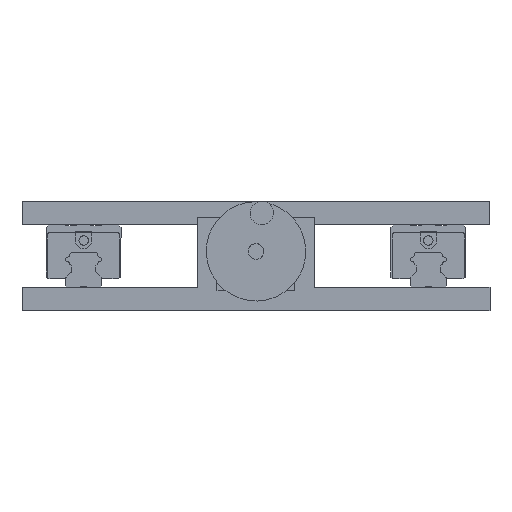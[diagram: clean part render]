
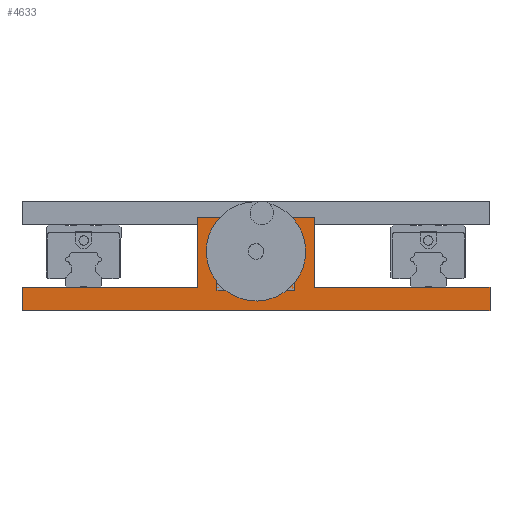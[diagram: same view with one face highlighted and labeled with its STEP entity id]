
A CAD part, front view. The second image highlights one B-rep face of the part: STEP entity #4633.
In plain terms, the highlighted planar face has unit normal (0, -1, 0).
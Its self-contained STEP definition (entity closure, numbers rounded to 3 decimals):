
#540 = ORIENTED_EDGE ( 'NONE', *, *, #39850, .F. ) ;
#1753 = EDGE_CURVE ( 'NONE', #54665, #45444, #26984, .T. ) ;
#3218 = CARTESIAN_POINT ( 'NONE',  ( 37.5, -266.5, 60. ) ) ;
#3254 = VERTEX_POINT ( 'NONE', #3218 ) ;
#3854 = VERTEX_POINT ( 'NONE', #57516 ) ;
#4633 = ADVANCED_FACE ( 'NONE', ( #56930, #22943 ), #48410, .F. ) ;
#5668 = CARTESIAN_POINT ( 'NONE',  ( -150., -266.5, 15. ) ) ;
#5722 = CARTESIAN_POINT ( 'NONE',  ( -150., -266.5, 15. ) ) ;
#8097 = DIRECTION ( 'NONE',  ( 0., -1., 0. ) ) ;
#8407 = CARTESIAN_POINT ( 'NONE',  ( 150., -266.5, 0. ) ) ;
#8583 = VECTOR ( 'NONE', #30534, 1000. ) ;
#9227 = LINE ( 'NONE', #5668, #34590 ) ;
#10027 = CARTESIAN_POINT ( 'NONE',  ( 150., -266.5, 15. ) ) ;
#11351 = DIRECTION ( 'NONE',  ( 1., 0., 0. ) ) ;
#11408 = ORIENTED_EDGE ( 'NONE', *, *, #27014, .F. ) ;
#11821 = CARTESIAN_POINT ( 'NONE',  ( -150., -266.5, 0. ) ) ;
#12724 = EDGE_LOOP ( 'NONE', ( #540, #50839 ) ) ;
#13428 = VECTOR ( 'NONE', #11351, 1000. ) ;
#14248 = VECTOR ( 'NONE', #50300, 1000. ) ;
#15967 = CARTESIAN_POINT ( 'NONE',  ( 150., -266.5, 15. ) ) ;
#16598 = ORIENTED_EDGE ( 'NONE', *, *, #58957, .F. ) ;
#17943 = CARTESIAN_POINT ( 'NONE',  ( -37.5, -266.5, 60. ) ) ;
#19107 = EDGE_CURVE ( 'NONE', #67072, #39209, #21316, .T. ) ;
#19497 = EDGE_CURVE ( 'NONE', #3254, #3854, #58570, .T. ) ;
#19889 = DIRECTION ( 'NONE',  ( 0., 0., 1. ) ) ;
#20057 = LINE ( 'NONE', #15967, #42958 ) ;
#20602 = ORIENTED_EDGE ( 'NONE', *, *, #19497, .F. ) ;
#20662 = VECTOR ( 'NONE', #45597, 1000. ) ;
#21316 = CIRCLE ( 'NONE', #45463, 5. ) ;
#22162 = CARTESIAN_POINT ( 'NONE',  ( -37.5, -266.5, 60. ) ) ;
#22943 = FACE_OUTER_BOUND ( 'NONE', #51099, .T. ) ;
#23355 = DIRECTION ( 'NONE',  ( 1., 0., 0. ) ) ;
#25136 = CARTESIAN_POINT ( 'NONE',  ( 0., -266.5, 33. ) ) ;
#26984 = LINE ( 'NONE', #34656, #47333 ) ;
#27014 = EDGE_CURVE ( 'NONE', #30918, #56373, #20057, .T. ) ;
#27824 = LINE ( 'NONE', #11821, #13428 ) ;
#28956 = CARTESIAN_POINT ( 'NONE',  ( -37.5, -266.5, 60. ) ) ;
#29407 = DIRECTION ( 'NONE',  ( 0., 0., 1. ) ) ;
#30125 = CARTESIAN_POINT ( 'NONE',  ( 0., -266.5, 38. ) ) ;
#30372 = CIRCLE ( 'NONE', #33089, 5. ) ;
#30534 = DIRECTION ( 'NONE',  ( 0., 0., -1. ) ) ;
#30918 = VERTEX_POINT ( 'NONE', #10027 ) ;
#32471 = EDGE_CURVE ( 'NONE', #40164, #45444, #49883, .T. ) ;
#33089 = AXIS2_PLACEMENT_3D ( 'NONE', #30125, #8097, #29407 ) ;
#34590 = VECTOR ( 'NONE', #64506, 1000. ) ;
#34656 = CARTESIAN_POINT ( 'NONE',  ( -150., -266.5, 15. ) ) ;
#35478 = CARTESIAN_POINT ( 'NONE',  ( 37.5, -266.5, 60. ) ) ;
#35969 = EDGE_CURVE ( 'NONE', #40164, #3254, #51060, .T. ) ;
#36163 = ORIENTED_EDGE ( 'NONE', *, *, #1753, .F. ) ;
#39209 = VERTEX_POINT ( 'NONE', #62326 ) ;
#39629 = DIRECTION ( 'NONE',  ( 1., 0., 0. ) ) ;
#39850 = EDGE_CURVE ( 'NONE', #39209, #67072, #30372, .T. ) ;
#40164 = VERTEX_POINT ( 'NONE', #22162 ) ;
#41472 = CARTESIAN_POINT ( 'NONE',  ( 0., -266.5, 38. ) ) ;
#42958 = VECTOR ( 'NONE', #48232, 1000. ) ;
#45444 = VERTEX_POINT ( 'NONE', #55851 ) ;
#45463 = AXIS2_PLACEMENT_3D ( 'NONE', #41472, #63891, #19889 ) ;
#45597 = DIRECTION ( 'NONE',  ( 0., 0., -1. ) ) ;
#46081 = CARTESIAN_POINT ( 'NONE',  ( -150., -266.5, 15. ) ) ;
#46289 = ORIENTED_EDGE ( 'NONE', *, *, #53875, .T. ) ;
#46750 = VERTEX_POINT ( 'NONE', #59504 ) ;
#46971 = ORIENTED_EDGE ( 'NONE', *, *, #35969, .F. ) ;
#47333 = VECTOR ( 'NONE', #39629, 1000. ) ;
#47372 = ORIENTED_EDGE ( 'NONE', *, *, #32471, .T. ) ;
#48232 = DIRECTION ( 'NONE',  ( 0., 0., -1. ) ) ;
#48410 = PLANE ( 'NONE',  #64513 ) ;
#49551 = LINE ( 'NONE', #46081, #20662 ) ;
#49622 = ORIENTED_EDGE ( 'NONE', *, *, #67492, .T. ) ;
#49883 = LINE ( 'NONE', #28956, #14248 ) ;
#50300 = DIRECTION ( 'NONE',  ( 0., 0., -1. ) ) ;
#50839 = ORIENTED_EDGE ( 'NONE', *, *, #19107, .F. ) ;
#51060 = LINE ( 'NONE', #17943, #63652 ) ;
#51099 = EDGE_LOOP ( 'NONE', ( #49622, #11408, #16598, #20602, #46971, #47372, #36163, #46289 ) ) ;
#53875 = EDGE_CURVE ( 'NONE', #54665, #46750, #49551, .T. ) ;
#54665 = VERTEX_POINT ( 'NONE', #5722 ) ;
#55851 = CARTESIAN_POINT ( 'NONE',  ( -37.5, -266.5, 15. ) ) ;
#56373 = VERTEX_POINT ( 'NONE', #8407 ) ;
#56930 = FACE_BOUND ( 'NONE', #12724, .T. ) ;
#57516 = CARTESIAN_POINT ( 'NONE',  ( 37.5, -266.5, 15. ) ) ;
#58570 = LINE ( 'NONE', #35478, #8583 ) ;
#58957 = EDGE_CURVE ( 'NONE', #3854, #30918, #9227, .T. ) ;
#59270 = DIRECTION ( 'NONE',  ( 0., 0., 1. ) ) ;
#59495 = CARTESIAN_POINT ( 'NONE',  ( -150., -266.5, 15. ) ) ;
#59504 = CARTESIAN_POINT ( 'NONE',  ( -150., -266.5, 0. ) ) ;
#62326 = CARTESIAN_POINT ( 'NONE',  ( 0., -266.5, 43. ) ) ;
#63652 = VECTOR ( 'NONE', #23355, 1000. ) ;
#63891 = DIRECTION ( 'NONE',  ( 0., -1., 0. ) ) ;
#64506 = DIRECTION ( 'NONE',  ( 1., 0., 0. ) ) ;
#64513 = AXIS2_PLACEMENT_3D ( 'NONE', #59495, #70062, #59270 ) ;
#67072 = VERTEX_POINT ( 'NONE', #25136 ) ;
#67492 = EDGE_CURVE ( 'NONE', #46750, #56373, #27824, .T. ) ;
#70062 = DIRECTION ( 'NONE',  ( 0., 1., 0. ) ) ;
